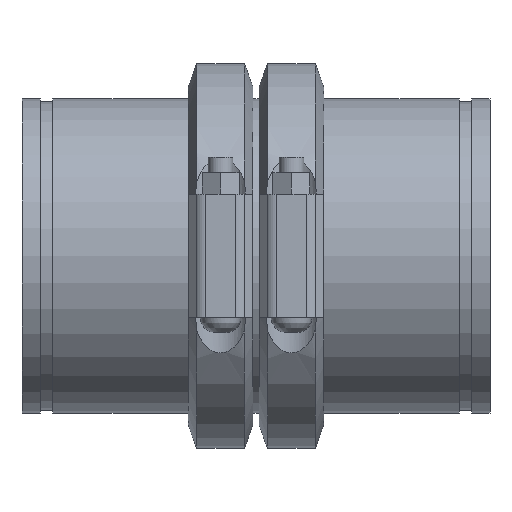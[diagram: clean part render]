
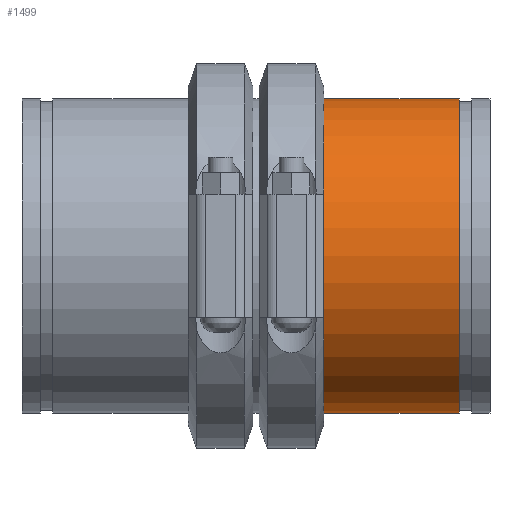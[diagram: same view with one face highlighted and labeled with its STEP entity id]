
A CAD part, top view. The second image highlights one B-rep face of the part: STEP entity #1499.
In plain terms, the highlighted cylindrical face has radius 161.925 mm (diameter 323.85 mm), a full revolution.
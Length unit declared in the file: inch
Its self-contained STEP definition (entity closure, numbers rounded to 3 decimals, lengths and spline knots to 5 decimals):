
#71=LINE('',#2387,#160);
#160=VECTOR('',#1932,6.375);
#249=CYLINDRICAL_SURFACE('',#1710,6.375);
#310=FACE_OUTER_BOUND('',#399,.T.);
#399=EDGE_LOOP('',(#980,#981,#982,#983,#984,#985));
#513=CIRCLE('',#1708,6.375);
#514=CIRCLE('',#1709,6.375);
#515=CIRCLE('',#1711,6.375);
#516=CIRCLE('',#1712,6.375);
#609=VERTEX_POINT('',#2378);
#610=VERTEX_POINT('',#2379);
#611=VERTEX_POINT('',#2383);
#612=VERTEX_POINT('',#2384);
#758=EDGE_CURVE('',#609,#610,#513,.T.);
#759=EDGE_CURVE('',#610,#609,#514,.T.);
#760=EDGE_CURVE('',#611,#612,#515,.T.);
#761=EDGE_CURVE('',#612,#611,#516,.T.);
#762=EDGE_CURVE('',#612,#610,#71,.T.);
#980=ORIENTED_EDGE('',*,*,#760,.F.);
#981=ORIENTED_EDGE('',*,*,#761,.F.);
#982=ORIENTED_EDGE('',*,*,#762,.T.);
#983=ORIENTED_EDGE('',*,*,#759,.T.);
#984=ORIENTED_EDGE('',*,*,#758,.T.);
#985=ORIENTED_EDGE('',*,*,#762,.F.);
#1499=ADVANCED_FACE('',(#310),#249,.T.);
#1708=AXIS2_PLACEMENT_3D('',#2380,#1922,#1923);
#1709=AXIS2_PLACEMENT_3D('',#2381,#1924,#1925);
#1710=AXIS2_PLACEMENT_3D('',#2382,#1926,#1927);
#1711=AXIS2_PLACEMENT_3D('',#2385,#1928,#1929);
#1712=AXIS2_PLACEMENT_3D('',#2386,#1930,#1931);
#1922=DIRECTION('center_axis',(-1.,0.,0.));
#1923=DIRECTION('ref_axis',(0.,0.,1.));
#1924=DIRECTION('center_axis',(-1.,0.,0.));
#1925=DIRECTION('ref_axis',(0.,0.,1.));
#1926=DIRECTION('center_axis',(-1.,0.,0.));
#1927=DIRECTION('ref_axis',(0.,1.,0.));
#1928=DIRECTION('center_axis',(-1.,0.,0.));
#1929=DIRECTION('ref_axis',(0.,0.,1.));
#1930=DIRECTION('center_axis',(-1.,0.,0.));
#1931=DIRECTION('ref_axis',(0.,0.,1.));
#1932=DIRECTION('',(1.,0.,0.));
#2378=CARTESIAN_POINT('',(2.75,6.375,0.));
#2379=CARTESIAN_POINT('',(2.75,-6.375,0.));
#2380=CARTESIAN_POINT('Origin',(2.75,0.,0.));
#2381=CARTESIAN_POINT('Origin',(2.75,0.,0.));
#2382=CARTESIAN_POINT('Origin',(0.,0.,
0.));
#2383=CARTESIAN_POINT('',(-2.75,6.375,0.));
#2384=CARTESIAN_POINT('',(-2.75,-6.375,0.));
#2385=CARTESIAN_POINT('Origin',(-2.75,0.,0.));
#2386=CARTESIAN_POINT('Origin',(-2.75,0.,0.));
#2387=CARTESIAN_POINT('',(0.,-6.375,0.));
